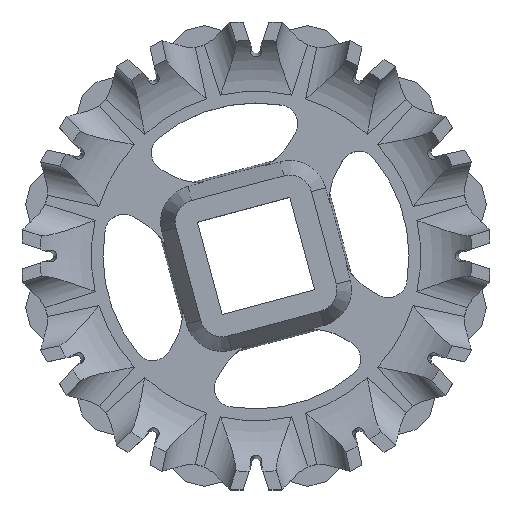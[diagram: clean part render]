
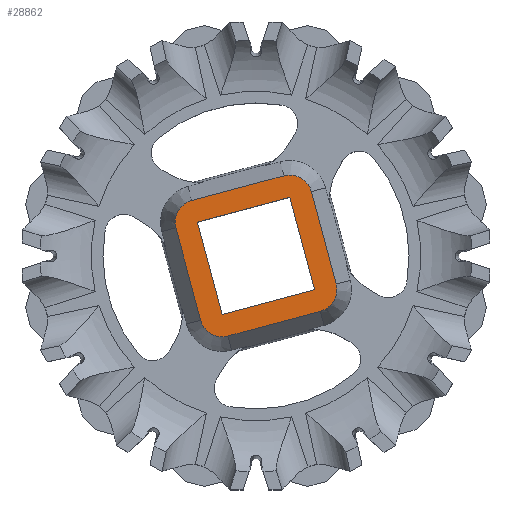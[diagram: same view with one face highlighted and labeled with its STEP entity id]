
A CAD part, top view. The second image highlights one B-rep face of the part: STEP entity #28862.
In plain terms, the highlighted planar face has unit normal (0, 0, 1).
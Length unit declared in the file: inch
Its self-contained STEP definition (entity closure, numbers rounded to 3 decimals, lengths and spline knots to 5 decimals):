
#5408=DIRECTION('',(-0.259,0.966,0.));
#5409=VECTOR('',#5408,1.5);
#5410=CARTESIAN_POINT('',(1.25663,-0.43974,0.75));
#5411=LINE('',#5410,#5409);
#9288=CARTESIAN_POINT('',(0.91856,-0.53033,0.75));
#9289=DIRECTION('',(0.,0.,1.));
#9290=DIRECTION('',(0.259,-0.966,0.));
#9291=AXIS2_PLACEMENT_3D('',#9288,#9289,#9290);
#9297=DIRECTION('',(0.966,0.259,0.));
#9298=VECTOR('',#9297,1.5);
#9299=CARTESIAN_POINT('',(-0.43974,-1.25663,0.75));
#9300=LINE('',#9299,#9298);
#9319=CARTESIAN_POINT('',(-0.53033,-0.91856,0.75));
#9320=DIRECTION('',(0.,0.,1.));
#9321=DIRECTION('',(-0.966,-0.259,0.));
#9322=AXIS2_PLACEMENT_3D('',#9319,#9320,#9321);
#9328=DIRECTION('',(0.259,-0.966,0.));
#9329=VECTOR('',#9328,1.5);
#9330=CARTESIAN_POINT('',(-1.25663,0.43974,0.75));
#9331=LINE('',#9330,#9329);
#9346=CARTESIAN_POINT('',(-0.91856,0.53033,0.75));
#9347=DIRECTION('',(0.,0.,1.));
#9348=DIRECTION('',(-0.259,0.966,0.));
#9349=AXIS2_PLACEMENT_3D('',#9346,#9347,#9348);
#9355=DIRECTION('',(-0.966,-0.259,0.));
#9356=VECTOR('',#9355,1.5);
#9357=CARTESIAN_POINT('',(0.43974,1.25663,0.75));
#9358=LINE('',#9357,#9356);
#9373=CARTESIAN_POINT('',(0.53033,0.91856,0.75));
#9374=DIRECTION('',(0.,0.,1.));
#9375=DIRECTION('',(0.966,0.259,0.));
#9376=AXIS2_PLACEMENT_3D('',#9373,#9374,#9375);
#9378=DIRECTION('',(0.259,-0.966,0.));
#9379=VECTOR('',#9378,1.5);
#9380=CARTESIAN_POINT('',(0.53033,0.91856,0.75));
#9381=LINE('',#9380,#9379);
#9382=DIRECTION('',(0.966,0.259,0.));
#9383=VECTOR('',#9382,1.5);
#9384=CARTESIAN_POINT('',(-0.91856,0.53033,0.75));
#9385=LINE('',#9384,#9383);
#9386=DIRECTION('',(-0.259,0.966,0.));
#9387=VECTOR('',#9386,1.5);
#9388=CARTESIAN_POINT('',(-0.53033,-0.91856,0.75));
#9389=LINE('',#9388,#9387);
#9390=DIRECTION('',(-0.966,-0.259,0.));
#9391=VECTOR('',#9390,1.5);
#9392=CARTESIAN_POINT('',(0.91856,-0.53033,0.75));
#9393=LINE('',#9392,#9391);
#16338=CARTESIAN_POINT('',(1.00915,-0.8684,0.75));
#16339=VERTEX_POINT('',#16338);
#16340=CARTESIAN_POINT('',(1.25663,-0.43974,0.75));
#16341=VERTEX_POINT('',#16340);
#16342=CARTESIAN_POINT('',(0.8684,1.00915,0.75));
#16343=VERTEX_POINT('',#16342);
#16344=CARTESIAN_POINT('',(0.43974,1.25663,0.75));
#16345=VERTEX_POINT('',#16344);
#16346=CARTESIAN_POINT('',(-1.00915,0.8684,0.75));
#16347=VERTEX_POINT('',#16346);
#16348=CARTESIAN_POINT('',(-1.25663,0.43974,0.75));
#16349=VERTEX_POINT('',#16348);
#16350=CARTESIAN_POINT('',(-0.8684,-1.00915,0.75));
#16351=VERTEX_POINT('',#16350);
#16352=CARTESIAN_POINT('',(-0.43974,-1.25663,0.75));
#16353=VERTEX_POINT('',#16352);
#20240=CARTESIAN_POINT('',(0.53033,0.91856,0.75));
#20241=CARTESIAN_POINT('',(0.91856,-0.53033,0.75));
#20242=VERTEX_POINT('',#20240);
#20243=VERTEX_POINT('',#20241);
#20244=CARTESIAN_POINT('',(-0.53033,-0.91856,0.75));
#20245=VERTEX_POINT('',#20244);
#20246=CARTESIAN_POINT('',(-0.91856,0.53033,0.75));
#20247=VERTEX_POINT('',#20246);
#28837=CARTESIAN_POINT('',(0.,0.,0.75));
#28838=DIRECTION('',(0.,0.,1.));
#28839=DIRECTION('',(0.,1.,0.));
#28840=AXIS2_PLACEMENT_3D('',#28837,#28838,#28839);
#28841=PLANE('',#28840);
#28842=ORIENTED_EDGE('',*,*,#28741,.F.);
#28843=ORIENTED_EDGE('',*,*,#28762,.F.);
#28844=ORIENTED_EDGE('',*,*,#28776,.F.);
#28845=ORIENTED_EDGE('',*,*,#28797,.F.);
#28846=ORIENTED_EDGE('',*,*,#28811,.F.);
#28847=ORIENTED_EDGE('',*,*,#28831,.F.);
#28848=ORIENTED_EDGE('',*,*,#24891,.F.);
#28849=ORIENTED_EDGE('',*,*,#28727,.F.);
#28850=EDGE_LOOP('',(#28842,#28843,#28844,#28845,#28846,#28847,#28848,#28849));
#28851=FACE_OUTER_BOUND('',#28850,.F.);
#28853=ORIENTED_EDGE('',*,*,#28852,.F.);
#28855=ORIENTED_EDGE('',*,*,#28854,.F.);
#28857=ORIENTED_EDGE('',*,*,#28856,.F.);
#28859=ORIENTED_EDGE('',*,*,#28858,.F.);
#28860=EDGE_LOOP('',(#28853,#28855,#28857,#28859));
#28861=FACE_BOUND('',#28860,.F.);
#28862=ADVANCED_FACE('',(#28851,#28861),#28841,.T.);
#9292=CIRCLE('',#9291,0.35);
#9323=CIRCLE('',#9322,0.35);
#9350=CIRCLE('',#9349,0.35);
#9377=CIRCLE('',#9376,0.35);
#24891=EDGE_CURVE('',#16341,#16343,#5411,.T.);
#28727=EDGE_CURVE('',#16339,#16341,#9292,.T.);
#28741=EDGE_CURVE('',#16353,#16339,#9300,.T.);
#28762=EDGE_CURVE('',#16351,#16353,#9323,.T.);
#28776=EDGE_CURVE('',#16349,#16351,#9331,.T.);
#28797=EDGE_CURVE('',#16347,#16349,#9350,.T.);
#28811=EDGE_CURVE('',#16345,#16347,#9358,.T.);
#28831=EDGE_CURVE('',#16343,#16345,#9377,.T.);
#28852=EDGE_CURVE('',#20242,#20243,#9381,.T.);
#28854=EDGE_CURVE('',#20247,#20242,#9385,.T.);
#28856=EDGE_CURVE('',#20245,#20247,#9389,.T.);
#28858=EDGE_CURVE('',#20243,#20245,#9393,.T.);
